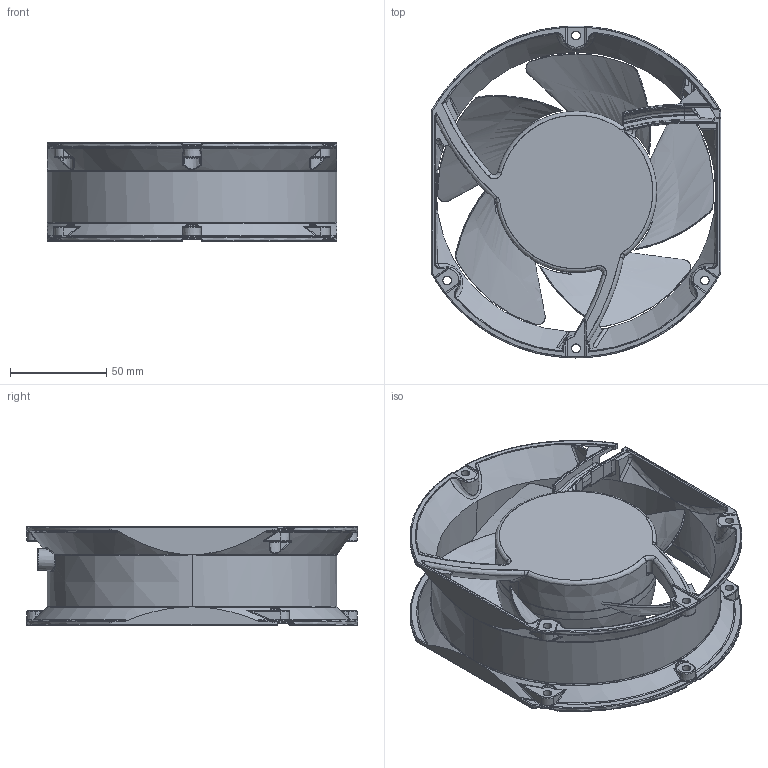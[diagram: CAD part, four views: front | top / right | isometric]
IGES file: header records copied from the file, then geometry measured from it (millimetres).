
Start section: SolidWorks IGES file using analytic representation for surfaces
Bounding box: 150 x 172 x 51 mm (x, y, z)
Surface area: 109647.6 mm2 (no closed solid volume)
Topology: 0 solids, 0 shells, 1086 faces, 9559 edges, 9490 vertices
Faces by surface type: bspline 811, revolution 275
